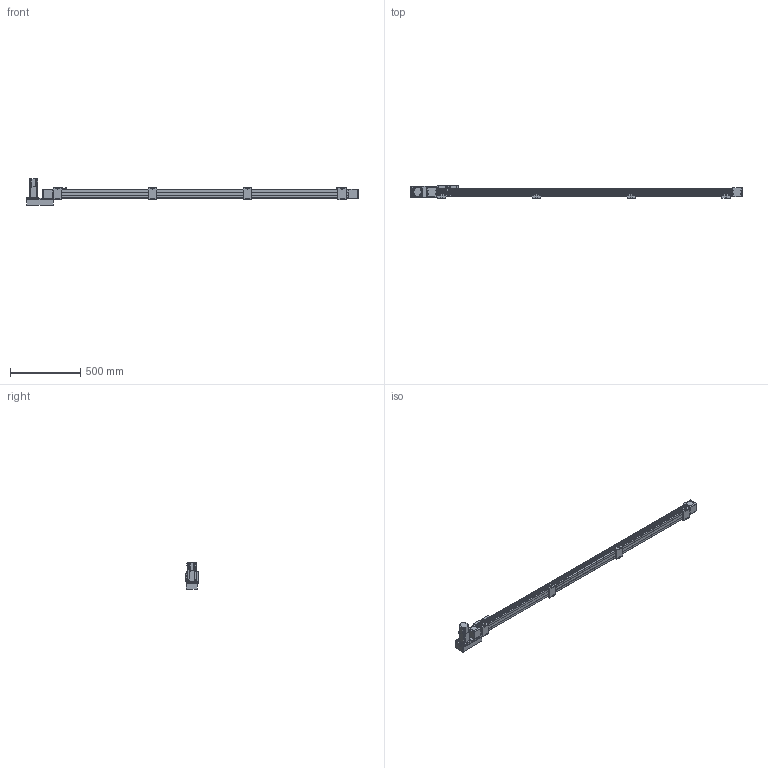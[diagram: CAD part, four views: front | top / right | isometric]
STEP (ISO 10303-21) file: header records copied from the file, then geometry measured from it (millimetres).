
FILE_DESCRIPTION(/* description */ ('STEP AP214'),/* implementation_level */ '2;1');
FILE_NAME(/* name */ 'SK60-P13-S1950-L-T40-C1-N(0)',/* time_stamp */ '2023-04-06T04:11:37+02:00',/* author */ ('License CC BY-ND 4.0'),/* organization */ ('CADENAS'),/* preprocessor_version */ 'ST-DEVELOPER v19.3',/* originating_system */ 'PARTsolutions',/* authorisation */ ' ');
FILE_SCHEMA (('AUTOMOTIVE_DESIGN {1 0 10303 214 3 1 1}'));
Length unit declared in the file: millimetre
Products named in the file (10): SK60-P13-S1950-L-T40-C1-N(0); PSC140-sensor; SK60-S450_seat; SK60-S450-BL-C1_slider; SK60_body3; SK60_body6; SK60-BL_body2; T40-p1; SK60-L_fb; SK60-S1950-L-C1_body
Assembly tree (18 placements, depth 2):
  SK60-P13-S1950-L-T40-C1-N(0)
    PSC140-sensor  x3
    SK60-S450_seat  x4
    SK60-S450-BL-C1_slider
    SK60_body3  x3
    SK60_body6  x2
    SK60-BL_body2  x2
    T40-p1
    SK60-L_fb
    SK60-S1950-L-C1_body
Bounding box: 2370.5 x 90 x 189.7 mm (x, y, z)
Volume: 8829214.7 mm3; surface area: 1052445.2 mm2
Topology: 18 solids, 18 shells, 898 faces, 2244 edges, 1477 vertices
Faces by surface type: plane 572, cylinder 294, cone 30, torus 2
Full cylindrical faces by diameter (mm): 2.8 x3, 3.3 x4, 4 x2, 4.5 x30, 4.6 x3, 4.917 x24, 5 x6, 5.478 x4, 5.5 x27, 6.5 x8, 7 x2, 8 x4, 8.5 x4, 9.988 x4, 10 x16, 14 x1, 47 x3, 50 x2
Entity records: 18671 total; most frequent: DIRECTION 3188, CARTESIAN_POINT 3152, ORIENTED_EDGE 2940, EDGE_CURVE 1470, AXIS2_PLACEMENT_3D 1070, LINE 1048, VECTOR 1048, VERTEX_POINT 1034
